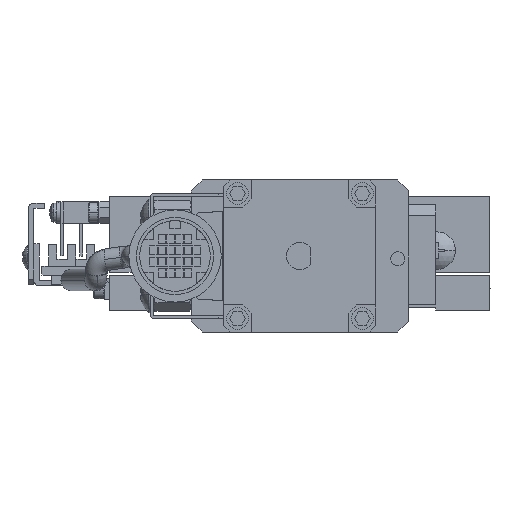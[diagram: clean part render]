
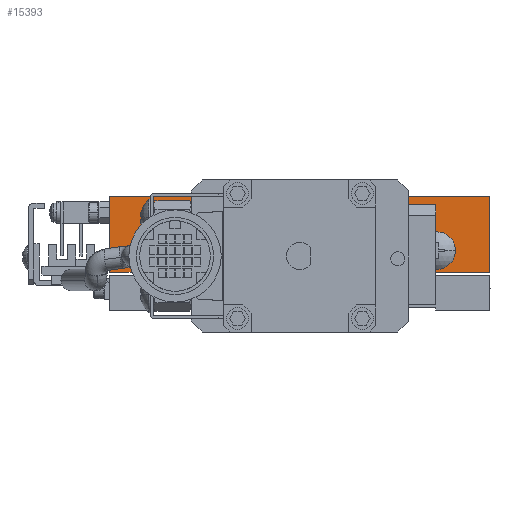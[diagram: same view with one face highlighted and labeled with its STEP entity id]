
A CAD part, left-side view. The second image highlights one B-rep face of the part: STEP entity #15393.
In plain terms, the highlighted planar face has unit normal (-1, 0, 0).
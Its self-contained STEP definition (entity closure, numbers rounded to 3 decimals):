
#566 = CIRCLE ( 'NONE', #29436, 3.45 ) ;
#1419 = CARTESIAN_POINT ( 'NONE',  ( -35., 25.2, 11. ) ) ;
#1796 = ORIENTED_EDGE ( 'NONE', *, *, #61377, .F. ) ;
#1941 = EDGE_CURVE ( 'NONE', #28749, #12975, #65707, .T. ) ;
#2933 = DIRECTION ( 'NONE',  ( 0., 0., -1. ) ) ;
#3496 = CARTESIAN_POINT ( 'NONE',  ( -35., 35., 7. ) ) ;
#3668 = DIRECTION ( 'NONE',  ( -1., 0., 0. ) ) ;
#3727 = DIRECTION ( 'NONE',  ( 0., 1., 0. ) ) ;
#3913 = VECTOR ( 'NONE', #25489, 1000. ) ;
#4101 = VERTEX_POINT ( 'NONE', #26072 ) ;
#4704 = CARTESIAN_POINT ( 'NONE',  ( -35., -20.9, 15.5 ) ) ;
#6011 = CARTESIAN_POINT ( 'NONE',  ( -35., -25.2, 11. ) ) ;
#6990 = ORIENTED_EDGE ( 'NONE', *, *, #11963, .F. ) ;
#7045 = CARTESIAN_POINT ( 'NONE',  ( -35., 35., 7. ) ) ;
#7308 = LINE ( 'NONE', #3496, #56501 ) ;
#7602 = CARTESIAN_POINT ( 'NONE',  ( -35., 20.9, 15.5 ) ) ;
#8126 = CARTESIAN_POINT ( 'NONE',  ( -35., -20.9, 15.5 ) ) ;
#8142 = CARTESIAN_POINT ( 'NONE',  ( -35., -35., 7. ) ) ;
#8793 = EDGE_CURVE ( 'NONE', #58383, #28749, #24572, .T. ) ;
#10014 = ORIENTED_EDGE ( 'NONE', *, *, #55918, .F. ) ;
#11963 = EDGE_CURVE ( 'NONE', #38956, #50068, #566, .T. ) ;
#12975 = VERTEX_POINT ( 'NONE', #60669 ) ;
#13345 = VECTOR ( 'NONE', #58097, 1000. ) ;
#13739 = EDGE_LOOP ( 'NONE', ( #40198, #10014 ) ) ;
#13906 = ORIENTED_EDGE ( 'NONE', *, *, #8793, .F. ) ;
#14346 = VERTEX_POINT ( 'NONE', #7045 ) ;
#14455 = EDGE_LOOP ( 'NONE', ( #46216, #6990 ) ) ;
#15234 = EDGE_CURVE ( 'NONE', #14346, #4101, #7308, .T. ) ;
#15393 = ADVANCED_FACE ( 'NONE', ( #50093, #65204, #35058 ), #49954, .T. ) ;
#16589 = DIRECTION ( 'NONE',  ( 0., 1., 0. ) ) ;
#17752 = CARTESIAN_POINT ( 'NONE',  ( -35., -35., 7. ) ) ;
#17844 = ORIENTED_EDGE ( 'NONE', *, *, #39662, .F. ) ;
#18073 = CARTESIAN_POINT ( 'NONE',  ( -35., 29.5, 7. ) ) ;
#19029 = AXIS2_PLACEMENT_3D ( 'NONE', #6011, #25941, #16589 ) ;
#19423 = ORIENTED_EDGE ( 'NONE', *, *, #34318, .F. ) ;
#19600 = DIRECTION ( 'NONE',  ( -1., 0., 0. ) ) ;
#20046 = ORIENTED_EDGE ( 'NONE', *, *, #1941, .F. ) ;
#20506 = LINE ( 'NONE', #26131, #3913 ) ;
#21016 = DIRECTION ( 'NONE',  ( 0., -1., 0. ) ) ;
#21425 = CIRCLE ( 'NONE', #19029, 3.45 ) ;
#22757 = EDGE_CURVE ( 'NONE', #28826, #25465, #21425, .T. ) ;
#23323 = CARTESIAN_POINT ( 'NONE',  ( -35., 20.9, 7. ) ) ;
#23650 = CARTESIAN_POINT ( 'NONE',  ( -35., -21.75, 11. ) ) ;
#24572 = LINE ( 'NONE', #53409, #54727 ) ;
#25373 = DIRECTION ( 'NONE',  ( 0., 0., 1. ) ) ;
#25465 = VERTEX_POINT ( 'NONE', #46764 ) ;
#25489 = DIRECTION ( 'NONE',  ( 0., 0., -1. ) ) ;
#25941 = DIRECTION ( 'NONE',  ( -1., 0., 0. ) ) ;
#26072 = CARTESIAN_POINT ( 'NONE',  ( -35., 35., 21. ) ) ;
#26131 = CARTESIAN_POINT ( 'NONE',  ( -35., 20.9, 15.5 ) ) ;
#26192 = CARTESIAN_POINT ( 'NONE',  ( -35., -35., 21. ) ) ;
#27650 = VERTEX_POINT ( 'NONE', #23323 ) ;
#27716 = AXIS2_PLACEMENT_3D ( 'NONE', #49253, #3668, #33542 ) ;
#28076 = DIRECTION ( 'NONE',  ( 0., 1., 0. ) ) ;
#28749 = VERTEX_POINT ( 'NONE', #8142 ) ;
#28826 = VERTEX_POINT ( 'NONE', #23650 ) ;
#29436 = AXIS2_PLACEMENT_3D ( 'NONE', #57250, #37316, #36438 ) ;
#30452 = AXIS2_PLACEMENT_3D ( 'NONE', #1419, #57211, #32586 ) ;
#31216 = EDGE_CURVE ( 'NONE', #57566, #27650, #20506, .T. ) ;
#32372 = CIRCLE ( 'NONE', #27716, 3.45 ) ;
#32586 = DIRECTION ( 'NONE',  ( 0., 1., 0. ) ) ;
#33346 = ORIENTED_EDGE ( 'NONE', *, *, #38511, .F. ) ;
#33542 = DIRECTION ( 'NONE',  ( 0., 1., 0. ) ) ;
#34318 = EDGE_CURVE ( 'NONE', #27650, #14346, #43833, .T. ) ;
#34518 = CARTESIAN_POINT ( 'NONE',  ( -35., 21.75, 11. ) ) ;
#35058 = FACE_BOUND ( 'NONE', #14455, .T. ) ;
#35174 = VECTOR ( 'NONE', #42938, 1000. ) ;
#35558 = CARTESIAN_POINT ( 'NONE',  ( -35., 0., 21. ) ) ;
#35827 = ORIENTED_EDGE ( 'NONE', *, *, #15234, .F. ) ;
#36438 = DIRECTION ( 'NONE',  ( 0., 1., 0. ) ) ;
#37316 = DIRECTION ( 'NONE',  ( -1., 0., 0. ) ) ;
#38511 = EDGE_CURVE ( 'NONE', #4101, #58383, #50995, .T. ) ;
#38956 = VERTEX_POINT ( 'NONE', #34518 ) ;
#39447 = ORIENTED_EDGE ( 'NONE', *, *, #31216, .F. ) ;
#39662 = EDGE_CURVE ( 'NONE', #53021, #57566, #56450, .T. ) ;
#40198 = ORIENTED_EDGE ( 'NONE', *, *, #22757, .F. ) ;
#42938 = DIRECTION ( 'NONE',  ( 0., 0., 1. ) ) ;
#43833 = LINE ( 'NONE', #18073, #64463 ) ;
#44891 = CIRCLE ( 'NONE', #30452, 3.45 ) ;
#45476 = EDGE_LOOP ( 'NONE', ( #1796, #20046, #13906, #33346, #35827, #19423, #39447, #17844 ) ) ;
#45797 = CARTESIAN_POINT ( 'NONE',  ( -35., 28.65, 11. ) ) ;
#46216 = ORIENTED_EDGE ( 'NONE', *, *, #50855, .F. ) ;
#46764 = CARTESIAN_POINT ( 'NONE',  ( -35., -28.65, 11. ) ) ;
#48869 = DIRECTION ( 'NONE',  ( 0., 0., 1. ) ) ;
#49253 = CARTESIAN_POINT ( 'NONE',  ( -35., -25.2, 11. ) ) ;
#49288 = VECTOR ( 'NONE', #28076, 1000. ) ;
#49954 = PLANE ( 'NONE',  #49977 ) ;
#49977 = AXIS2_PLACEMENT_3D ( 'NONE', #35558, #19600, #25373 ) ;
#50068 = VERTEX_POINT ( 'NONE', #45797 ) ;
#50093 = FACE_OUTER_BOUND ( 'NONE', #45476, .T. ) ;
#50855 = EDGE_CURVE ( 'NONE', #50068, #38956, #44891, .T. ) ;
#50995 = LINE ( 'NONE', #61801, #58956 ) ;
#52664 = CARTESIAN_POINT ( 'NONE',  ( -35., -20.9, 15. ) ) ;
#53021 = VERTEX_POINT ( 'NONE', #4704 ) ;
#53409 = CARTESIAN_POINT ( 'NONE',  ( -35., -35., 21. ) ) ;
#54727 = VECTOR ( 'NONE', #2933, 1000. ) ;
#55918 = EDGE_CURVE ( 'NONE', #25465, #28826, #32372, .T. ) ;
#56450 = LINE ( 'NONE', #8126, #49288 ) ;
#56501 = VECTOR ( 'NONE', #48869, 1000. ) ;
#57211 = DIRECTION ( 'NONE',  ( -1., 0., 0. ) ) ;
#57250 = CARTESIAN_POINT ( 'NONE',  ( -35., 25.2, 11. ) ) ;
#57566 = VERTEX_POINT ( 'NONE', #7602 ) ;
#58097 = DIRECTION ( 'NONE',  ( 0., 1., 0. ) ) ;
#58383 = VERTEX_POINT ( 'NONE', #26192 ) ;
#58956 = VECTOR ( 'NONE', #21016, 1000. ) ;
#60669 = CARTESIAN_POINT ( 'NONE',  ( -35., -20.9, 7. ) ) ;
#61293 = LINE ( 'NONE', #52664, #35174 ) ;
#61377 = EDGE_CURVE ( 'NONE', #12975, #53021, #61293, .T. ) ;
#61801 = CARTESIAN_POINT ( 'NONE',  ( -35., 35., 21. ) ) ;
#64463 = VECTOR ( 'NONE', #3727, 1000. ) ;
#65204 = FACE_BOUND ( 'NONE', #13739, .T. ) ;
#65707 = LINE ( 'NONE', #17752, #13345 ) ;
